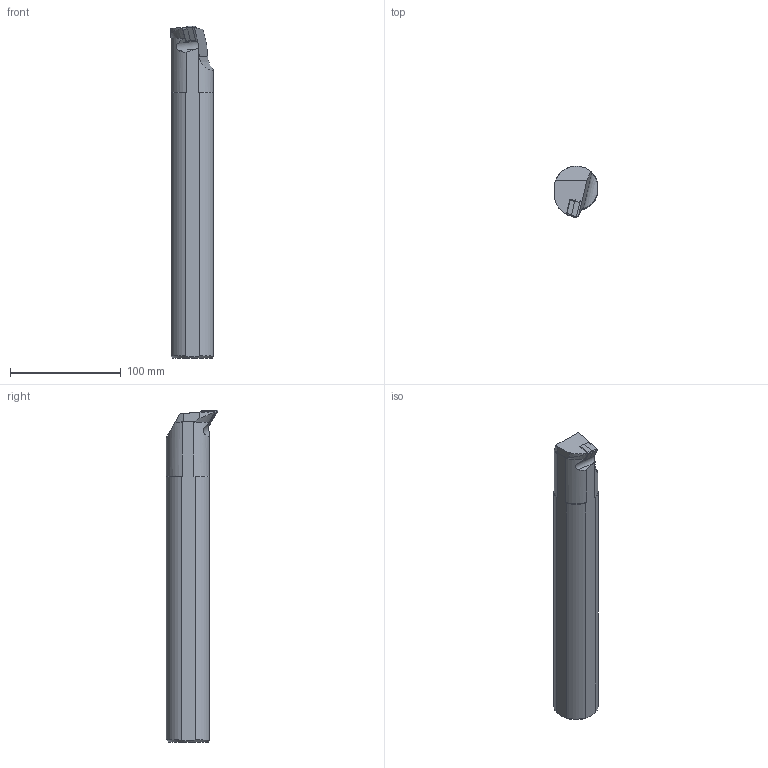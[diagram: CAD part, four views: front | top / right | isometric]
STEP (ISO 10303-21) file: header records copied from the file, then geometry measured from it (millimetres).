
FILE_DESCRIPTION(/* description */ (''),/* implementation_level */ '2;1');
FILE_NAME(/* name */ 'A40T-MDUNR-15-3-HAAS_210825.stp',/* time_stamp */ '2021-09-30T17:07:05+09:00',/* author */ (''),/* organization */ (''),/* preprocessor_version */ 'ST-DEVELOPER v15',/* originating_system */ 'SIEMENS PLM Software NX 8.5',/* authorisation */ '');
FILE_SCHEMA (('AP203_CONFIGURATION_CONTROLLED_3D_DESIGN_OF_MECHANICAL_PARTS_AND_ASSEMBLIES_MIM_LF { 1 0 10303 403 2 1 2}'));
Length unit declared in the file: millimetre
Products named in the file (1): userF2984F2A8mcr
Bounding box: 38.5 x 46.93 x 300 mm (x, y, z)
Volume: 355228 mm3; surface area: 40204.6 mm2
Topology: 3 solids, 3 shells, 65 faces, 161 edges, 103 vertices
Faces by surface type: plane 28, cylinder 22, cone 13, bspline 1, torus 1
Full cylindrical faces by diameter (mm): 5.16 x1, 7.34 x1, 8 x1
Entity records: 2081 total; most frequent: CARTESIAN_POINT 470, DIRECTION 317, ORIENTED_EDGE 306, EDGE_CURVE 153, AXIS2_PLACEMENT_3D 121, VERTEX_POINT 102, EDGE_LOOP 77, LINE 75
